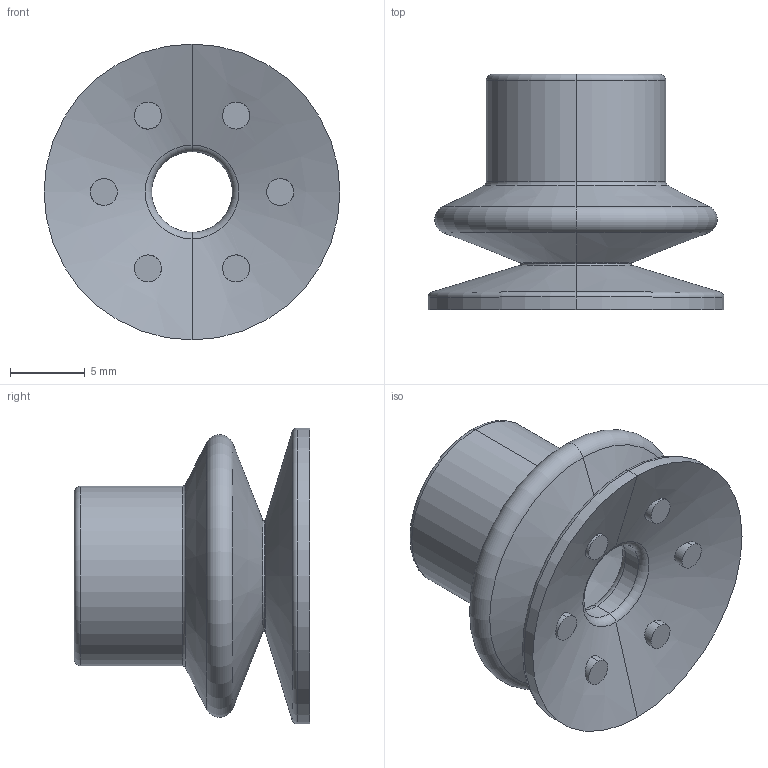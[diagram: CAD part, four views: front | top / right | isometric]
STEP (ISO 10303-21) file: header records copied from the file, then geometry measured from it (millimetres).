
FILE_DESCRIPTION (( 'STEP AP203' ), '1' );
FILE_NAME ('89_20--A.STEP', '2019-06-06T09:37:53', ( '' ), ( '' ), 'SwSTEP 2.0', 'SolidWorks 2016', '' );
FILE_SCHEMA (( 'CONFIG_CONTROL_DESIGN' ));
Length unit declared in the file: millimetre
Products named in the file (1): 89_20--A
Bounding box: 19.8 x 15.75 x 19.8 mm (x, y, z)
Volume: 1458.4 mm3; surface area: 2028.1 mm2
Topology: 1 solids, 1 shells, 67 faces, 134 edges, 76 vertices
Faces by surface type: torus 26, cylinder 20, cone 12, plane 9
Entity records: 1979 total; most frequent: CARTESIAN_POINT 462, DIRECTION 348, ORIENTED_EDGE 268, AXIS2_PLACEMENT_3D 158, EDGE_CURVE 134, CIRCLE 90, VERTEX_POINT 76, EDGE_LOOP 76
